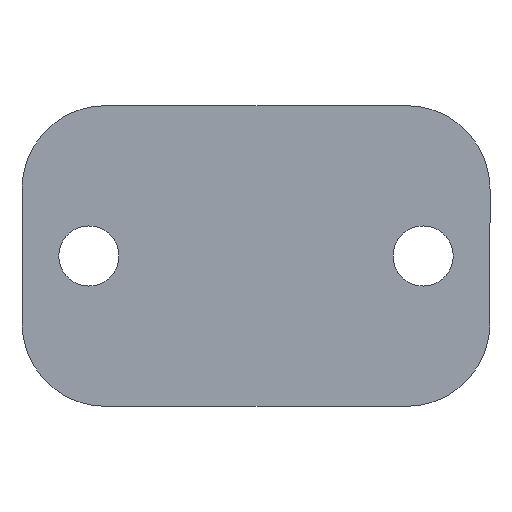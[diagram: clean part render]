
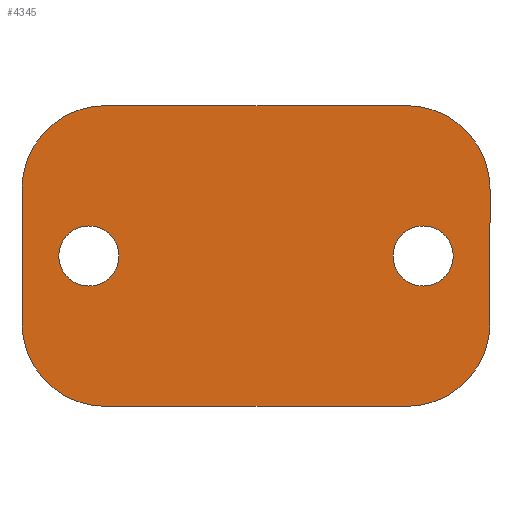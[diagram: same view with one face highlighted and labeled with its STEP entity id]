
A CAD part, front view. The second image highlights one B-rep face of the part: STEP entity #4345.
In plain terms, the highlighted planar face has unit normal (0, -1, 0).
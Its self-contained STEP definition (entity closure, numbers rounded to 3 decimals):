
#64 = VECTOR ( 'NONE', #3376, 1000. ) ;
#96 = DIRECTION ( 'NONE',  ( 1., 0., 0. ) ) ;
#135 = CARTESIAN_POINT ( 'NONE',  ( -45., -20., -45. ) ) ;
#157 = EDGE_CURVE ( 'NONE', #3709, #908, #1032, .T. ) ;
#185 = PLANE ( 'NONE',  #4701 ) ;
#252 = CIRCLE ( 'NONE', #4419, 9. ) ;
#263 = AXIS2_PLACEMENT_3D ( 'NONE', #952, #3991, #96 ) ;
#297 = EDGE_LOOP ( 'NONE', ( #5346, #5437 ) ) ;
#383 = ORIENTED_EDGE ( 'NONE', *, *, #3027, .T. ) ;
#396 = LINE ( 'NONE', #2099, #1064 ) ;
#401 = CARTESIAN_POINT ( 'NONE',  ( -70., -20., -20. ) ) ;
#429 = AXIS2_PLACEMENT_3D ( 'NONE', #1856, #3930, #1883 ) ;
#448 = CIRCLE ( 'NONE', #263, 25. ) ;
#551 = FACE_BOUND ( 'NONE', #297, .T. ) ;
#571 = CARTESIAN_POINT ( 'NONE',  ( -45., -20., -45. ) ) ;
#605 = CIRCLE ( 'NONE', #3699, 9. ) ;
#636 = VERTEX_POINT ( 'NONE', #1733 ) ;
#735 = DIRECTION ( 'NONE',  ( -1., 0., 0. ) ) ;
#765 = AXIS2_PLACEMENT_3D ( 'NONE', #1264, #1205, #2999 ) ;
#845 = EDGE_CURVE ( 'NONE', #1693, #3945, #3857, .T. ) ;
#908 = VERTEX_POINT ( 'NONE', #3975 ) ;
#918 = CARTESIAN_POINT ( 'NONE',  ( 41., -20., 0. ) ) ;
#933 = ORIENTED_EDGE ( 'NONE', *, *, #4755, .T. ) ;
#937 = ORIENTED_EDGE ( 'NONE', *, *, #5608, .T. ) ;
#952 = CARTESIAN_POINT ( 'NONE',  ( 45., -20., 20. ) ) ;
#1032 = CIRCLE ( 'NONE', #765, 9. ) ;
#1036 = DIRECTION ( 'NONE',  ( 1., 0., 0. ) ) ;
#1064 = VECTOR ( 'NONE', #735, 1000. ) ;
#1075 = VERTEX_POINT ( 'NONE', #5455 ) ;
#1091 = CARTESIAN_POINT ( 'NONE',  ( -59., -20., 0. ) ) ;
#1205 = DIRECTION ( 'NONE',  ( 0., -1., 0. ) ) ;
#1264 = CARTESIAN_POINT ( 'NONE',  ( -50., -20., 0. ) ) ;
#1269 = VECTOR ( 'NONE', #4067, 1000. ) ;
#1285 = LINE ( 'NONE', #3776, #64 ) ;
#1384 = DIRECTION ( 'NONE',  ( 1., 0., 0. ) ) ;
#1423 = EDGE_CURVE ( 'NONE', #3517, #3163, #1790, .T. ) ;
#1595 = ORIENTED_EDGE ( 'NONE', *, *, #2619, .T. ) ;
#1623 = VERTEX_POINT ( 'NONE', #2528 ) ;
#1693 = VERTEX_POINT ( 'NONE', #401 ) ;
#1733 = CARTESIAN_POINT ( 'NONE',  ( 45., -20., 45. ) ) ;
#1778 = ORIENTED_EDGE ( 'NONE', *, *, #3545, .T. ) ;
#1790 = CIRCLE ( 'NONE', #2690, 9. ) ;
#1800 = CIRCLE ( 'NONE', #4968, 25. ) ;
#1856 = CARTESIAN_POINT ( 'NONE',  ( 45., -20., -20. ) ) ;
#1883 = DIRECTION ( 'NONE',  ( 1., 0., 0. ) ) ;
#2062 = DIRECTION ( 'NONE',  ( 0., -1., 0. ) ) ;
#2099 = CARTESIAN_POINT ( 'NONE',  ( -45., -20., 45. ) ) ;
#2101 = ORIENTED_EDGE ( 'NONE', *, *, #3661, .T. ) ;
#2200 = DIRECTION ( 'NONE',  ( 0., -1., 0. ) ) ;
#2252 = CARTESIAN_POINT ( 'NONE',  ( 50., -20., 0. ) ) ;
#2528 = CARTESIAN_POINT ( 'NONE',  ( 45., -20., -45. ) ) ;
#2619 = EDGE_CURVE ( 'NONE', #1623, #1075, #2885, .T. ) ;
#2690 = AXIS2_PLACEMENT_3D ( 'NONE', #4182, #2972, #2916 ) ;
#2706 = DIRECTION ( 'NONE',  ( 1., 0., 0. ) ) ;
#2713 = EDGE_CURVE ( 'NONE', #3163, #3517, #605, .T. ) ;
#2885 = CIRCLE ( 'NONE', #429, 25. ) ;
#2911 = ORIENTED_EDGE ( 'NONE', *, *, #157, .F. ) ;
#2916 = DIRECTION ( 'NONE',  ( 1., 0., 0. ) ) ;
#2923 = CARTESIAN_POINT ( 'NONE',  ( -50., -20., 0. ) ) ;
#2972 = DIRECTION ( 'NONE',  ( 0., -1., 0. ) ) ;
#2999 = DIRECTION ( 'NONE',  ( 1., 0., 0. ) ) ;
#3027 = EDGE_CURVE ( 'NONE', #636, #5464, #396, .T. ) ;
#3040 = EDGE_CURVE ( 'NONE', #1075, #3424, #1285, .T. ) ;
#3106 = CARTESIAN_POINT ( 'NONE',  ( -45., -20., -20. ) ) ;
#3163 = VERTEX_POINT ( 'NONE', #4764 ) ;
#3198 = LINE ( 'NONE', #4524, #4058 ) ;
#3228 = EDGE_LOOP ( 'NONE', ( #5161, #933, #1595, #4211, #937, #383, #1778, #2101 ) ) ;
#3303 = EDGE_CURVE ( 'NONE', #908, #3709, #252, .T. ) ;
#3376 = DIRECTION ( 'NONE',  ( 0., 0., 1. ) ) ;
#3395 = DIRECTION ( 'NONE',  ( 0., -1., 0. ) ) ;
#3424 = VERTEX_POINT ( 'NONE', #5242 ) ;
#3492 = AXIS2_PLACEMENT_3D ( 'NONE', #3106, #3395, #5588 ) ;
#3517 = VERTEX_POINT ( 'NONE', #918 ) ;
#3545 = EDGE_CURVE ( 'NONE', #5464, #3641, #1800, .T. ) ;
#3568 = EDGE_LOOP ( 'NONE', ( #5524, #2911 ) ) ;
#3592 = DIRECTION ( 'NONE',  ( 0., 0., -1. ) ) ;
#3641 = VERTEX_POINT ( 'NONE', #3987 ) ;
#3661 = EDGE_CURVE ( 'NONE', #3641, #1693, #3198, .T. ) ;
#3699 = AXIS2_PLACEMENT_3D ( 'NONE', #2252, #2200, #2706 ) ;
#3709 = VERTEX_POINT ( 'NONE', #1091 ) ;
#3776 = CARTESIAN_POINT ( 'NONE',  ( 70., -20., 20. ) ) ;
#3857 = CIRCLE ( 'NONE', #3492, 25. ) ;
#3913 = CARTESIAN_POINT ( 'NONE',  ( -45., -20., 20. ) ) ;
#3930 = DIRECTION ( 'NONE',  ( 0., -1., 0. ) ) ;
#3945 = VERTEX_POINT ( 'NONE', #135 ) ;
#3975 = CARTESIAN_POINT ( 'NONE',  ( -41., -20., 0. ) ) ;
#3987 = CARTESIAN_POINT ( 'NONE',  ( -70., -20., 20. ) ) ;
#3988 = CARTESIAN_POINT ( 'NONE',  ( 0., -20., 0. ) ) ;
#3991 = DIRECTION ( 'NONE',  ( 0., -1., 0. ) ) ;
#4058 = VECTOR ( 'NONE', #3592, 1000. ) ;
#4067 = DIRECTION ( 'NONE',  ( 1., 0., 0. ) ) ;
#4075 = FACE_OUTER_BOUND ( 'NONE', #3228, .T. ) ;
#4182 = CARTESIAN_POINT ( 'NONE',  ( 50., -20., 0. ) ) ;
#4211 = ORIENTED_EDGE ( 'NONE', *, *, #3040, .T. ) ;
#4345 = ADVANCED_FACE ( 'NONE', ( #4927, #551, #4075 ), #185, .T. ) ;
#4419 = AXIS2_PLACEMENT_3D ( 'NONE', #2923, #2062, #4667 ) ;
#4464 = LINE ( 'NONE', #571, #1269 ) ;
#4468 = DIRECTION ( 'NONE',  ( 0., -1., 0. ) ) ;
#4524 = CARTESIAN_POINT ( 'NONE',  ( -70., -20., 20. ) ) ;
#4667 = DIRECTION ( 'NONE',  ( 1., 0., 0. ) ) ;
#4701 = AXIS2_PLACEMENT_3D ( 'NONE', #3988, #4468, #1036 ) ;
#4755 = EDGE_CURVE ( 'NONE', #3945, #1623, #4464, .T. ) ;
#4764 = CARTESIAN_POINT ( 'NONE',  ( 59., -20., 0. ) ) ;
#4789 = CARTESIAN_POINT ( 'NONE',  ( -45., -20., 45. ) ) ;
#4927 = FACE_BOUND ( 'NONE', #3568, .T. ) ;
#4968 = AXIS2_PLACEMENT_3D ( 'NONE', #3913, #5589, #1384 ) ;
#5161 = ORIENTED_EDGE ( 'NONE', *, *, #845, .T. ) ;
#5242 = CARTESIAN_POINT ( 'NONE',  ( 70., -20., 20. ) ) ;
#5346 = ORIENTED_EDGE ( 'NONE', *, *, #2713, .F. ) ;
#5437 = ORIENTED_EDGE ( 'NONE', *, *, #1423, .F. ) ;
#5455 = CARTESIAN_POINT ( 'NONE',  ( 70., -20., -20. ) ) ;
#5464 = VERTEX_POINT ( 'NONE', #4789 ) ;
#5524 = ORIENTED_EDGE ( 'NONE', *, *, #3303, .F. ) ;
#5588 = DIRECTION ( 'NONE',  ( 1., 0., 0. ) ) ;
#5589 = DIRECTION ( 'NONE',  ( 0., -1., 0. ) ) ;
#5608 = EDGE_CURVE ( 'NONE', #3424, #636, #448, .T. ) ;
